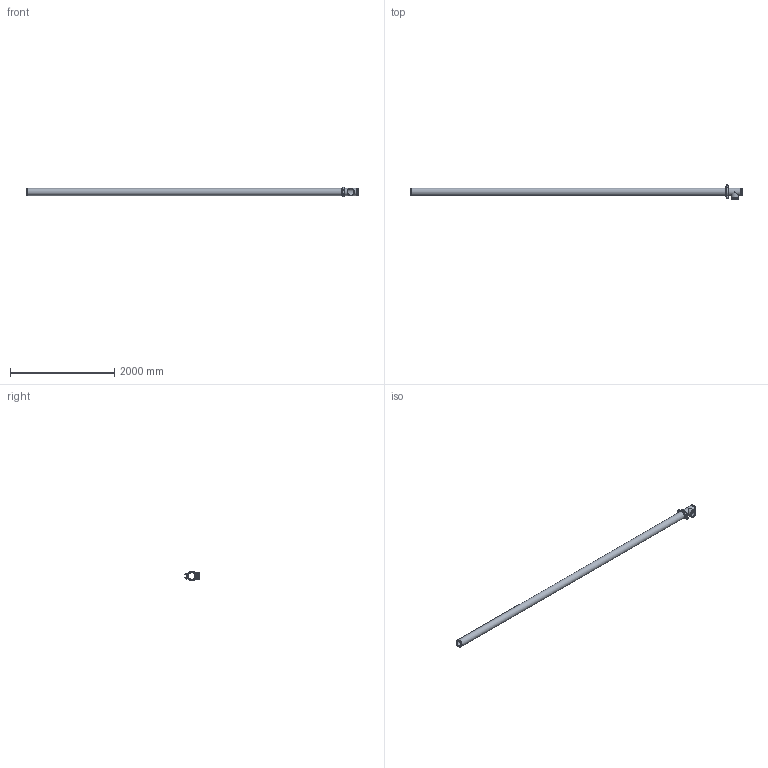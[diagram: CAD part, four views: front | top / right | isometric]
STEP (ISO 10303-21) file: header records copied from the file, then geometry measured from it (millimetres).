
FILE_DESCRIPTION(/* description */ ('VIC LONG RUN FITTING No R12 (OGS)','CAx-IF Rec.Pracs.---Representation and Presentation of Product Manufacturing Information (PMI)---4.0---2014-10-13'),/* implementation_level */ '2;1');
FILE_NAME(/* name */ 'C:\Users\Vjadhav\AppData\Roaming\Autodesk\ApplicationPlugins\Back Up\Victaulic_IPS_Long Run Fittings_No R12 (OGS)\Victaulic_IPS_Long Run Fittings_No R12 (OGS)_5 (125).stp',/* time_stamp */ '2020-10-06T18:49:04+05:00',/* author */ ('Vjadhav'),/* organization */ ('Victaulic'),/* preprocessor_version */ 'ST-DEVELOPER v17.2',/* originating_system */ 'Autodesk Inventor 2019',/* authorisation */ '');
FILE_SCHEMA (('AP242_MANAGED_MODEL_BASED_3D_ENGINEERING_MIM_LF { 1 0 10303 442 1 1 4 }'));
Length unit declared in the file: inch
Products named in the file (4): R12-05.0; 020-05.0; 107N-05.0; Pipe_R10-05.0
Assembly tree (3 placements, depth 2):
  R12-05.0
    020-05.0
    107N-05.0
    Pipe_R10-05.0
Bounding box: 6379.21 x 269.88 x 180.99 mm (x, y, z)
Volume: 18401988.7 mm3; surface area: 5571372 mm2
Topology: 3 solids, 3 shells, 156 faces, 407 edges, 276 vertices
Faces by surface type: plane 65, cylinder 63, bspline 16, torus 6, cone 4, sphere 2
Full cylindrical faces by diameter (mm): 15.875 x4, 27.381 x2, 128.194 x3, 128.6 x1, 137.033 x5, 141.3 x10
Entity records: 5807 total; most frequent: CARTESIAN_POINT 1520, DIRECTION 867, ORIENTED_EDGE 814, EDGE_CURVE 407, AXIS2_PLACEMENT_3D 345, VERTEX_POINT 276, EDGE_LOOP 187, LINE 177
